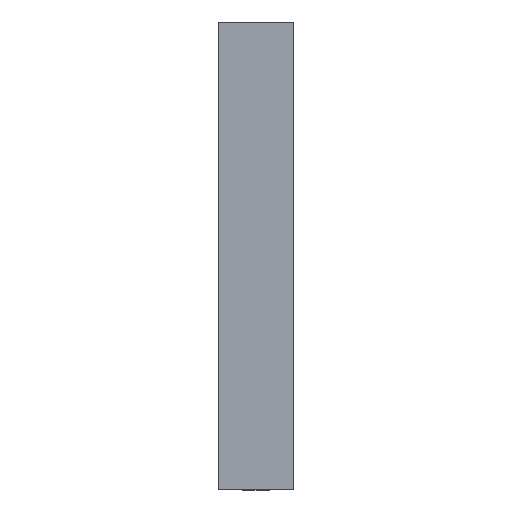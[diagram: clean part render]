
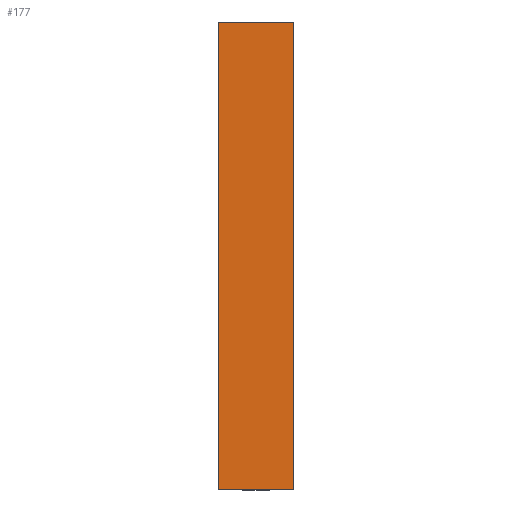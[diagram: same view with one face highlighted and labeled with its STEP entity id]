
A CAD part, top view. The second image highlights one B-rep face of the part: STEP entity #177.
In plain terms, the highlighted planar face has unit normal (0, 0, 1).
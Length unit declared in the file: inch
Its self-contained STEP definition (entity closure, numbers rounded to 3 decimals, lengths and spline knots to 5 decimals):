
#27 = DIRECTION ( 'NONE',  ( 0., -1., 0. ) ) ;
#29 = ORIENTED_EDGE ( 'NONE', *, *, #112, .F. ) ;
#35 = CARTESIAN_POINT ( 'NONE',  ( 3.875, 0., 0. ) ) ;
#40 = VECTOR ( 'NONE', #90, 39.37008 ) ;
#44 = CARTESIAN_POINT ( 'NONE',  ( 3.875, 48., 0. ) ) ;
#46 = CARTESIAN_POINT ( 'NONE',  ( -3.875, 0., 0. ) ) ;
#54 = VERTEX_POINT ( 'NONE', #173 ) ;
#63 = DIRECTION ( 'NONE',  ( 0., 0., -1. ) ) ;
#66 = DIRECTION ( 'NONE',  ( -1., 0., 0. ) ) ;
#90 = DIRECTION ( 'NONE',  ( 1., 0., 0. ) ) ;
#93 = CARTESIAN_POINT ( 'NONE',  ( 3.875, 48., 0. ) ) ;
#95 = LINE ( 'NONE', #144, #211 ) ;
#96 = EDGE_CURVE ( 'NONE', #54, #119, #105, .T. ) ;
#99 = ORIENTED_EDGE ( 'NONE', *, *, #202, .T. ) ;
#104 = ORIENTED_EDGE ( 'NONE', *, *, #96, .F. ) ;
#105 = LINE ( 'NONE', #162, #40 ) ;
#108 = DIRECTION ( 'NONE',  ( 1., 0., 0. ) ) ;
#110 = CARTESIAN_POINT ( 'NONE',  ( 3.875, 0., 0. ) ) ;
#112 = EDGE_CURVE ( 'NONE', #119, #148, #124, .T. ) ;
#119 = VERTEX_POINT ( 'NONE', #44 ) ;
#123 = VERTEX_POINT ( 'NONE', #46 ) ;
#124 = LINE ( 'NONE', #93, #194 ) ;
#125 = LINE ( 'NONE', #35, #207 ) ;
#142 = CARTESIAN_POINT ( 'NONE',  ( 3.875, 48., 0. ) ) ;
#143 = DIRECTION ( 'NONE',  ( 0., -1., 0. ) ) ;
#144 = CARTESIAN_POINT ( 'NONE',  ( -3.875, 48., 0. ) ) ;
#146 = FACE_OUTER_BOUND ( 'NONE', #204, .T. ) ;
#148 = VERTEX_POINT ( 'NONE', #110 ) ;
#162 = CARTESIAN_POINT ( 'NONE',  ( 3.875, 48., 0. ) ) ;
#173 = CARTESIAN_POINT ( 'NONE',  ( -3.875, 48., 0. ) ) ;
#177 = ADVANCED_FACE ( 'NONE', ( #146 ), #180, .F. ) ;
#180 = PLANE ( 'NONE',  #198 ) ;
#185 = ORIENTED_EDGE ( 'NONE', *, *, #206, .T. ) ;
#194 = VECTOR ( 'NONE', #27, 39.37008 ) ;
#198 = AXIS2_PLACEMENT_3D ( 'NONE', #142, #63, #66 ) ;
#202 = EDGE_CURVE ( 'NONE', #123, #148, #125, .T. ) ;
#204 = EDGE_LOOP ( 'NONE', ( #99, #29, #104, #185 ) ) ;
#206 = EDGE_CURVE ( 'NONE', #54, #123, #95, .T. ) ;
#207 = VECTOR ( 'NONE', #108, 39.37008 ) ;
#211 = VECTOR ( 'NONE', #143, 39.37008 ) ;
